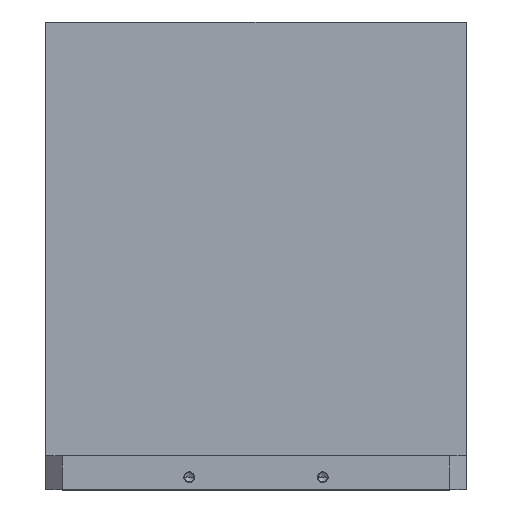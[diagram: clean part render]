
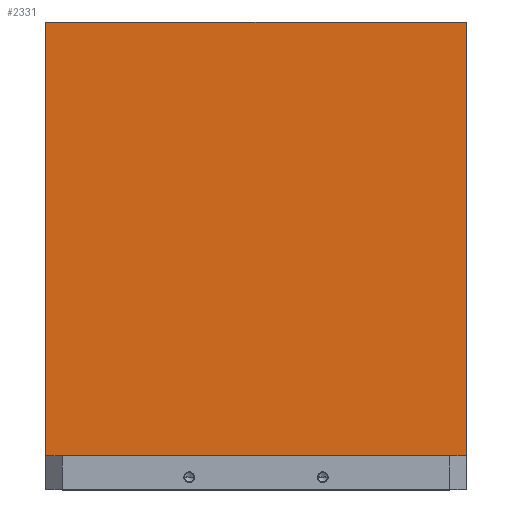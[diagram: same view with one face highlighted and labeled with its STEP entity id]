
A CAD part, top view. The second image highlights one B-rep face of the part: STEP entity #2331.
In plain terms, the highlighted planar face has unit normal (0, 0, 1).
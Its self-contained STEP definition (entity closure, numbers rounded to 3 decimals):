
#69=DIRECTION('',(1.,0.,0.));
#70=VECTOR('',#69,630.);
#71=CARTESIAN_POINT('',(-315.,0.,125.));
#72=LINE('',#71,#70);
#343=DIRECTION('',(0.,1.,0.));
#344=VECTOR('',#343,650.);
#345=CARTESIAN_POINT('',(315.,0.,125.));
#346=LINE('',#345,#344);
#427=DIRECTION('',(0.,1.,0.));
#428=VECTOR('',#427,650.);
#429=CARTESIAN_POINT('',(-315.,0.,125.));
#430=LINE('',#429,#428);
#443=DIRECTION('',(1.,0.,0.));
#444=VECTOR('',#443,630.);
#445=CARTESIAN_POINT('',(-315.,650.,125.));
#446=LINE('',#445,#444);
#1366=CARTESIAN_POINT('',(-315.,650.,125.));
#1368=VERTEX_POINT('',#1366);
#1369=CARTESIAN_POINT('',(315.,650.,125.));
#1370=VERTEX_POINT('',#1369);
#1373=CARTESIAN_POINT('',(-315.,0.,125.));
#1374=CARTESIAN_POINT('',(315.,0.,125.));
#1375=VERTEX_POINT('',#1373);
#1376=VERTEX_POINT('',#1374);
#2319=CARTESIAN_POINT('',(-315.,0.,125.));
#2320=DIRECTION('',(0.,0.,1.));
#2321=DIRECTION('',(1.,0.,0.));
#2322=AXIS2_PLACEMENT_3D('',#2319,#2320,#2321);
#2323=PLANE('',#2322);
#2324=ORIENTED_EDGE('',*,*,#1788,.F.);
#2325=ORIENTED_EDGE('',*,*,#2055,.T.);
#2327=ORIENTED_EDGE('',*,*,#2326,.T.);
#2328=ORIENTED_EDGE('',*,*,#2168,.F.);
#2329=EDGE_LOOP('',(#2324,#2325,#2327,#2328));
#2330=FACE_OUTER_BOUND('',#2329,.F.);
#2331=ADVANCED_FACE('',(#2330),#2323,.T.);
#1788=EDGE_CURVE('',#1375,#1376,#72,.T.);
#2055=EDGE_CURVE('',#1375,#1368,#430,.T.);
#2168=EDGE_CURVE('',#1376,#1370,#346,.T.);
#2326=EDGE_CURVE('',#1368,#1370,#446,.T.);
